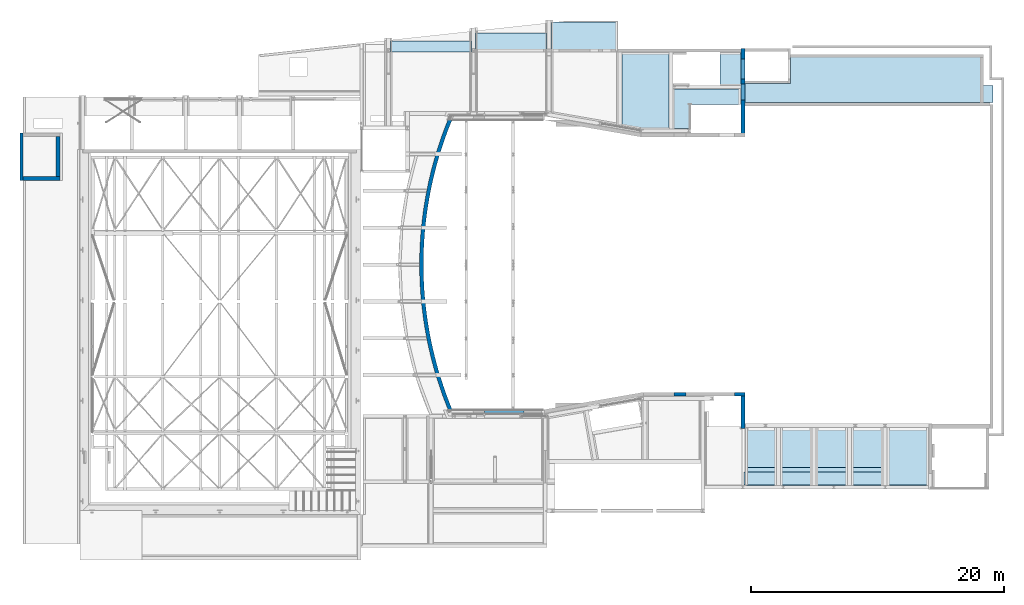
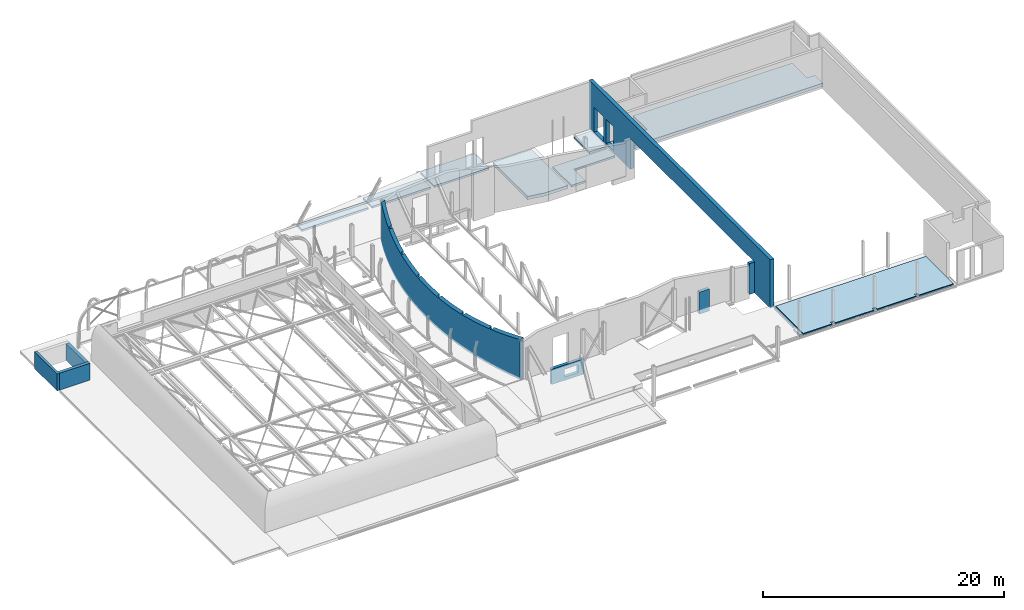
# One storey, part 31 of 38: 8 slabs, 8 walls, 20 openings.
"""IFC2X3 building model written with IfcOpenShell, lengths in millimetres."""

import ifcopenshell
import ifcopenshell.guid

model = None  # the IFC model being written
_history = None  # IfcOwnerHistory: only IFC2X3 demands one
_inside = {}  # id of a spatial element -> (the spatial element, [elements in it])
_under = {}  # id of a project, library or spatial element -> (it, [spatial elements below it])
_declared = {}  # id of a project -> (the project, [libraries it declares])
_typed = {}  # id of a type object -> (the type object, [elements of that type])
_made_of = {}  # id of a material, layer set ... -> (it, [elements and type objects made of it])


def new_model(schema):
    """Start an empty IFC model of exactly this schema.

    Asked for "IFC4X3", IfcOpenShell would pick the latest addendum, in which some entities
    have other attributes; the version numbers below select the first issue.
    IFC2X3 requires an IfcOwnerHistory on every rooted entity: one is made here for all.
    """
    global model, _history
    if schema == "IFC4X3":
        model = ifcopenshell.file(schema_version=(4, 3, 0, 0))
    else:
        model = ifcopenshell.file(schema=schema)
    _inside.clear()
    _under.clear()
    _declared.clear()
    _typed.clear()
    _made_of.clear()
    _history = None
    if model.schema == "IFC2X3":
        org = make("IfcOrganization", Name="unknown")
        user = make(
            "IfcPersonAndOrganization",
            ThePerson=make("IfcPerson", FamilyName="unknown"),
            TheOrganization=org,
        )
        app = make(
            "IfcApplication",
            ApplicationDeveloper=org,
            Version="unknown",
            ApplicationFullName="unknown",
            ApplicationIdentifier="unknown",
        )
        _history = make(
            "IfcOwnerHistory",
            OwningUser=user,
            OwningApplication=app,
            ChangeAction="ADDED",
            CreationDate=0,
        )
    return model


def make(cls, **values):
    """One entity of the class cls with the attributes given. An attribute that is None is left unset."""
    return model.create_entity(
        cls, **{name: value for name, value in values.items() if value is not None}
    )


def entity(cls, *values):
    """Any entity or typed value of the class cls, its attributes in the order of the schema. None: left unset."""
    e = model.create_entity(cls)
    for i, value in enumerate(values):
        if value is not None:
            e[i] = value
    return e


def rooted(cls, **values):
    """An entity with a GlobalId (a new one), such as an element, a storey or a relation."""
    return make(cls, GlobalId=ifcopenshell.guid.new(), OwnerHistory=_history, **values)


def si_unit(unit_type, name, prefix=None):
    """IfcSIUnit, for example si_unit("LENGTHUNIT", "METRE", prefix="MILLI")."""
    return make("IfcSIUnit", UnitType=unit_type, Prefix=prefix, Name=name)


def converted_unit(unit_type, name, factor, base, dimensions=None, offset=None):
    """IfcConversionBasedUnit, such as the inch: factor (a typed value) times the base unit."""
    return make(
        "IfcConversionBasedUnit"
        if offset is None
        else "IfcConversionBasedUnitWithOffset",
        ConversionOffset=offset,
        Dimensions=None
        if dimensions is None
        else entity("IfcDimensionalExponents", *dimensions),
        UnitType=unit_type,
        Name=name,
        ConversionFactor=make(
            "IfcMeasureWithUnit", ValueComponent=factor, UnitComponent=base
        ),
    )


def derived_unit(unit_type, elements):
    """IfcDerivedUnit: a product of units, each with its exponent."""
    return make(
        "IfcDerivedUnit",
        Elements=[
            make("IfcDerivedUnitElement", Unit=unit, Exponent=power)
            for unit, power in elements
        ],
        UnitType=unit_type,
    )


def assignment(units):
    """IfcUnitAssignment: the units of a project."""
    return None if units is None else make("IfcUnitAssignment", Units=units)


def point(xyz):
    """IfcCartesianPoint."""
    return None if xyz is None else make("IfcCartesianPoint", Coordinates=xyz)


def direction(xyz):
    """IfcDirection."""
    return None if xyz is None else make("IfcDirection", DirectionRatios=xyz)


def frame(location, z_axis=None, x_axis=None):
    """IfcAxis2Placement3D, a coordinate frame: its origin and axes. An axis left out is left unset."""
    return make(
        "IfcAxis2Placement3D",
        Location=point(location),
        Axis=direction(z_axis),
        RefDirection=direction(x_axis),
    )


def frame_2d(location, x_axis=None):
    """IfcAxis2Placement2D, a coordinate frame in the plane: its origin and x axis."""
    return make(
        "IfcAxis2Placement2D", Location=point(location), RefDirection=direction(x_axis)
    )


def origin():
    """The frame at (0, 0, 0) with its axes left unset."""
    return frame((0.0, 0.0, 0.0))


def origin_2d_with_axis():
    """The frame at (0, 0) in the plane with the x axis (1, 0) written out."""
    return frame_2d((0.0, 0.0), x_axis=(1.0, 0.0))


def place(relative_to, where):
    """IfcLocalPlacement: puts the frame where relative to a parent placement (None: the world)."""
    return make(
        "IfcLocalPlacement", PlacementRelTo=relative_to, RelativePlacement=where
    )


def context(
    kind, dimensions, precision=None, world=None, true_north=None, identifier=None
):
    """IfcGeometricRepresentationContext, for example the 3D "Model" context."""
    return make(
        "IfcGeometricRepresentationContext",
        ContextIdentifier=identifier,
        ContextType=kind,
        CoordinateSpaceDimension=dimensions,
        Precision=precision,
        WorldCoordinateSystem=world,
        TrueNorth=true_north,
    )


def subcontext(parent, identifier, kind, view, scale=None):
    """IfcGeometricRepresentationSubContext, for example "Body" below "Model"."""
    return make(
        "IfcGeometricRepresentationSubContext",
        ContextIdentifier=identifier,
        ContextType=kind,
        ParentContext=parent,
        TargetScale=scale,
        TargetView=view,
    )


def project(units=None, contexts=None):
    """IfcProject with its units and contexts."""
    return rooted(
        "IfcProject",
        Name="project",
        RepresentationContexts=contexts,
        UnitsInContext=assignment(units),
    )


def spatial(cls, under=None, at=None, **own):
    """A site, building, storey or space (cls), placed at a placement, below another one or the project."""
    s = rooted(cls, ObjectPlacement=at, **own)
    if under is not None:
        _under.setdefault(under.id(), (under, []))[1].append(s)
    return s


def polyline(points):
    """IfcPolyline through the points."""
    return make("IfcPolyline", Points=[point(p) for p in points])


def circle_curve(where, radius):
    """IfcCircle in the frame where."""
    return make("IfcCircle", Position=where, Radius=radius)


def parameter(value):
    """IfcParameterValue: where a trimmed curve begins or ends, as a parameter of its basis curve."""
    return model.create_entity("IfcParameterValue", value)


def trimmed(basis, trim1, trim2, sense, master):
    """IfcTrimmedCurve: the piece of a basis curve between two trims."""
    return make(
        "IfcTrimmedCurve",
        BasisCurve=basis,
        Trim1=trim1,
        Trim2=trim2,
        SenseAgreement=sense,
        MasterRepresentation=master,
    )


def segment(curve, same_sense, transition):
    """IfcCompositeCurveSegment."""
    return make(
        "IfcCompositeCurveSegment",
        Transition=transition,
        SameSense=same_sense,
        ParentCurve=curve,
    )


def composite_curve(segments, self_intersect=None):
    """IfcCompositeCurve: segments joined end to end."""
    return make("IfcCompositeCurve", Segments=segments, SelfIntersect=self_intersect)


def profile(cls, at=None, kind="AREA", **sizes):
    """A parametric profile (cls). Its sizes go by their IFC names, for example OverallWidth=200.0."""
    return make(cls, ProfileType=kind, Position=at, **sizes)


def rectangle(**sizes):
    """IfcRectangleProfileDef."""
    return profile("IfcRectangleProfileDef", **sizes)


def outline(outer, holes=None, kind="AREA"):
    """IfcArbitraryClosedProfileDef: a profile drawn as a closed curve; with holes, ...WithVoids."""
    if holes is None:
        return make("IfcArbitraryClosedProfileDef", ProfileType=kind, OuterCurve=outer)
    return make(
        "IfcArbitraryProfileDefWithVoids",
        ProfileType=kind,
        OuterCurve=outer,
        InnerCurves=holes,
    )


def extrude(swept, where, along, depth):
    """IfcExtrudedAreaSolid: the profile swept, set in the frame where, extruded along a direction by depth."""
    return make(
        "IfcExtrudedAreaSolid",
        SweptArea=swept,
        Position=where,
        ExtrudedDirection=direction(along),
        Depth=depth,
    )


def clip(a, b, op="DIFFERENCE"):
    """IfcBooleanClippingResult: the solid a cut by the half space b."""
    return make(
        "IfcBooleanClippingResult", Operator=op, FirstOperand=a, SecondOperand=b
    )


def halfspace(plane, agree):
    """IfcHalfSpaceSolid: all space on one side of the plane z = 0 of the frame plane."""
    return make(
        "IfcHalfSpaceSolid",
        BaseSurface=make("IfcPlane", Position=plane),
        AgreementFlag=agree,
    )


def faces_of(points, faces, orient=None, outer=None):
    """IfcFace entities. A face is a list of loops; a loop is a list of indices into points, from 0.

    orient and outer hold one flag for each loop. By default every Orientation is true, the
    first loop of a face is its IfcFaceOuterBound and the others are IfcFaceBound.
    """
    made = []
    for i, loops in enumerate(faces):
        bounds = []
        for j, loop in enumerate(loops):
            is_outer = j == 0 if outer is None else outer[i][j]
            bounds.append(
                make(
                    "IfcFaceOuterBound" if is_outer else "IfcFaceBound",
                    Bound=make("IfcPolyLoop", Polygon=[points[k] for k in loop]),
                    Orientation=True if orient is None else orient[i][j],
                )
            )
        made.append(make("IfcFace", Bounds=bounds))
    return made


def faceted_brep(points, faces, orient=None, outer=None, voids=None):
    """IfcFacetedBrep: a solid bounded by flat faces; with voids (closed shells), ...WithVoids."""
    shared = [point(p) for p in points]
    hull = make("IfcClosedShell", CfsFaces=faces_of(shared, faces, orient, outer))
    if voids is None:
        return make("IfcFacetedBrep", Outer=hull)
    return make(
        "IfcFacetedBrepWithVoids",
        Outer=hull,
        Voids=[
            make(cls, CfsFaces=faces_of(shared, fs, o, b)) for cls, fs, o, b in voids
        ],
    )


def shape(context_of_items, identifier, shape_type, items):
    """IfcShapeRepresentation: the items that make up one representation, for example the "Body"."""
    return make(
        "IfcShapeRepresentation",
        ContextOfItems=context_of_items,
        RepresentationIdentifier=identifier,
        RepresentationType=shape_type,
        Items=items,
    )


def material(Name=None, Category=None):
    """IfcMaterial."""
    return make("IfcMaterial", Name=Name, Category=Category)


def layer(
    of_material, thickness, ventilated=None, Name=None, Category=None, Priority=None
):
    """IfcMaterialLayer: one layer of a wall or slab, of a material (None: an air gap)."""
    return make(
        "IfcMaterialLayer",
        Material=of_material,
        LayerThickness=thickness,
        IsVentilated=ventilated,
        Name=Name,
        Category=Category,
        Priority=Priority,
    )


def layer_set(layers, Name=None):
    """IfcMaterialLayerSet."""
    return make("IfcMaterialLayerSet", MaterialLayers=layers, LayerSetName=Name)


def layer_usage(for_layer_set, set_direction, sense, offset, extent=None):
    """IfcMaterialLayerSetUsage: how a layer set lies in its element."""
    return make(
        "IfcMaterialLayerSetUsage",
        ForLayerSet=for_layer_set,
        LayerSetDirection=set_direction,
        DirectionSense=sense,
        OffsetFromReferenceLine=offset,
        ReferenceExtent=extent,
    )


def made_of(thing, what):
    """Note that an element or type object is made of a material, layer set ...; save() writes the relation."""
    if what is not None:
        _made_of.setdefault(what.id(), (what, []))[1].append(thing)
    return thing


def type_object(cls, material=None, **own):
    """A type object (cls), such as IfcWallType, which elements share."""
    return made_of(rooted(cls, **own), material)


def element(
    cls,
    number,
    at=None,
    inside=None,
    cuts=None,
    type_object=None,
    material=None,
    context=None,
    identifier="Body",
    shape_type=None,
    held_by="IfcProductDefinitionShape",
    body=None,
    shapes=None,
    **own,
):
    """One element of the class cls, such as IfcWall. Its Tag is "e" and its number.

    at: its placement. inside: the storey or other place that contains it. cuts: it is an
    opening in that element (IfcRelVoidsElement). A single representation is given by context,
    identifier, shape_type and body (its items); several are given by shapes. held_by: the class
    of the entity that holds the representations. save() writes the other relations.
    """
    e = rooted(cls, Tag="e%d" % number, ObjectPlacement=at, **own)
    if body is not None:
        shapes = [shape(context, identifier, shape_type, body)]
    if shapes is not None:
        e.Representation = make(held_by, Representations=shapes)
    if inside is not None:
        _inside.setdefault(inside.id(), (inside, []))[1].append(e)
    if cuts is not None:
        rooted(
            "IfcRelVoidsElement", RelatingBuildingElement=cuts, RelatedOpeningElement=e
        )
    if type_object is not None:
        _typed.setdefault(type_object.id(), (type_object, []))[1].append(e)
    return made_of(e, material)


def aggregate(whole, parts):
    """IfcRelAggregates: a whole, such as a stair, and the parts it consists of."""
    return rooted("IfcRelAggregates", RelatingObject=whole, RelatedObjects=parts)


def save(model, path):
    """Write the relations noted so far, then the file.

    IfcRelAggregates (storeys below a building ...), IfcRelContainedInSpatialStructure (elements
    in a storey), IfcRelDefinesByType, IfcRelAssociatesMaterial and IfcRelDeclares: one each for
    every whole, place, type object, material and project.
    """
    for whole, parts in _under.values():
        aggregate(whole, parts)
    for where, things in _inside.values():
        rooted(
            "IfcRelContainedInSpatialStructure",
            RelatedElements=things,
            RelatingStructure=where,
        )
    for kind, things in _typed.values():
        rooted("IfcRelDefinesByType", RelatedObjects=things, RelatingType=kind)
    for what, things in _made_of.values():
        rooted("IfcRelAssociatesMaterial", RelatedObjects=things, RelatingMaterial=what)
    for by, libraries in _declared.values():
        rooted("IfcRelDeclares", RelatingContext=by, RelatedDefinitions=libraries)
    model.write(path)


model = new_model("IFC2X3")

# Units and contexts
model_context = context("Model", 3, precision=0.01, world=origin(), true_north=direction((6.12303176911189e-17, 1.0)))
body_context = subcontext(model_context, "Body", "Model", "MODEL_VIEW")
ifc_project = project(units=[si_unit("LENGTHUNIT", "METRE", prefix="MILLI"), si_unit("AREAUNIT", "SQUARE_METRE", prefix="MILLI"), si_unit("VOLUMEUNIT", "CUBIC_METRE"), converted_unit("PLANEANGLEUNIT", "DEGREE", entity("IfcRatioMeasure", 0.0174532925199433), si_unit("PLANEANGLEUNIT", "RADIAN"), dimensions=[0, 0, 0, 0, 0, 0, 0]), si_unit("MASSUNIT", "GRAM", prefix="KILO"), derived_unit("MASSDENSITYUNIT", [(si_unit("MASSUNIT", "GRAM", prefix="KILO"), 1), (si_unit("LENGTHUNIT", "METRE"), -3)]), derived_unit("MOMENTOFINERTIAUNIT", [(si_unit("LENGTHUNIT", "METRE"), 4)]), si_unit("TIMEUNIT", "SECOND"), si_unit("FREQUENCYUNIT", "HERTZ"), si_unit("THERMODYNAMICTEMPERATUREUNIT", "DEGREE_CELSIUS"), derived_unit("THERMALTRANSMITTANCEUNIT", [(si_unit("MASSUNIT", "GRAM", prefix="KILO"), 1), (si_unit("THERMODYNAMICTEMPERATUREUNIT", "KELVIN"), -1), (si_unit("TIMEUNIT", "SECOND"), -3)]), derived_unit("VOLUMETRICFLOWRATEUNIT", [(si_unit("LENGTHUNIT", "METRE"), 3), (si_unit("TIMEUNIT", "SECOND"), -1)]), si_unit("ELECTRICCURRENTUNIT", "AMPERE"), si_unit("ELECTRICVOLTAGEUNIT", "VOLT"), si_unit("POWERUNIT", "WATT"), si_unit("FORCEUNIT", "NEWTON", prefix="KILO"), si_unit("ILLUMINANCEUNIT", "LUX"), si_unit("LUMINOUSFLUXUNIT", "LUMEN"), si_unit("LUMINOUSINTENSITYUNIT", "CANDELA"), derived_unit("USERDEFINED", [(si_unit("MASSUNIT", "GRAM", prefix="KILO"), -1), (si_unit("LENGTHUNIT", "METRE"), -2), (si_unit("TIMEUNIT", "SECOND"), 3), (si_unit("LUMINOUSFLUXUNIT", "LUMEN"), 1)]), derived_unit("LINEARVELOCITYUNIT", [(si_unit("LENGTHUNIT", "METRE"), 1), (si_unit("TIMEUNIT", "SECOND"), -1)]), si_unit("PRESSUREUNIT", "PASCAL"), derived_unit("USERDEFINED", [(si_unit("LENGTHUNIT", "METRE"), -2), (si_unit("MASSUNIT", "GRAM", prefix="KILO"), 1), (si_unit("TIMEUNIT", "SECOND"), -2)]), derived_unit("LINEARFORCEUNIT", [(si_unit("MASSUNIT", "GRAM", prefix="KILO"), 1), (si_unit("LENGTHUNIT", "METRE"), 1), (si_unit("TIMEUNIT", "SECOND"), -2), (si_unit("LENGTHUNIT", "METRE"), -1)]), derived_unit("PLANARFORCEUNIT", [(si_unit("MASSUNIT", "GRAM", prefix="KILO"), 1), (si_unit("LENGTHUNIT", "METRE"), 1), (si_unit("TIMEUNIT", "SECOND"), -2), (si_unit("LENGTHUNIT", "METRE"), -2)])], contexts=[model_context])

# Site, building, storey
site_placement = place(None, origin())
site = spatial("IfcSite", under=ifc_project, at=site_placement, Name="Theater aan de Parade", CompositionType="ELEMENT")
building_placement = place(site_placement, origin())
building = spatial("IfcBuilding", under=site, at=building_placement, Name="Theater aan de Parade", CompositionType="ELEMENT")
storey_placement = place(building_placement, frame((0.0, 0.0, 12480.0)))
storey = spatial("IfcBuildingStorey", under=building, at=storey_placement, Name="03 derde verdieping", CompositionType="ELEMENT", Elevation=12480.0)

# Slabs
ifc_material_1 = material(Name="00_PBT_MAT_systeemvloer")
ifc_layer_1 = layer(ifc_material_1, 320.0)
ifc_layer_set_1 = layer_set([ifc_layer_1], Name="Floor:28_PBT_FL_kanaalplaat_d=320")
ifc_layer_usage_1 = layer_usage(ifc_layer_set_1, "AXIS3", "POSITIVE", 0.0)
slab_type_1 = type_object("IfcSlabType", Name="Floor:28_PBT_FL_kanaalplaat_d=320", PredefinedType="FLOOR", material=ifc_layer_set_1)
slab_1_placement = place(storey_placement, origin())
element("IfcSlab", 1, at=slab_1_placement, inside=storey, type_object=slab_type_1, material=ifc_layer_usage_1, Name="Floor:28_PBT_FL_kanaalplaat_d=320", ObjectType="Floor:28_PBT_FL_kanaalplaat_d=320", PredefinedType="FLOOR", context=body_context, shape_type="SweptSolid", body=[
    extrude(outline(polyline([(-2223.35049208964, -2098.5780240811), (-57.7771015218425, -2098.5780240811), (1537.47768378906, -1819.40843665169), (1483.500200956, -1819.4084366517), (1483.500200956, 3917.98646073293), (-2223.35049208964, 3917.98646073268), (-2223.35049208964, -2098.5780240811)])), frame((59440.5317642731, 45303.5780240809, 60.0), z_axis=(0.0, 0.0, -1.0), x_axis=(-1.0, 0.0, 0.0)), (0.0, 0.0, 1.0), 320.000000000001),
])
ifc_material_2 = material(Name="00_PBT_MAT_beton t.p.g._C30/37")
ifc_layer_2 = layer(ifc_material_2, 320.0)
ifc_layer_set_2 = layer_set([ifc_layer_2], Name="Floor:28_PBT_FL_beton t.p.g._d=320_C30/37")
ifc_layer_usage_2 = layer_usage(ifc_layer_set_2, "AXIS3", "POSITIVE", 0.0)
slab_type_2 = type_object("IfcSlabType", Name="Floor:28_PBT_FL_beton t.p.g._d=320_C30/37", PredefinedType="FLOOR", material=ifc_layer_set_2)
slab_2_placement = place(storey_placement, origin())
element("IfcSlab", 2, at=slab_2_placement, inside=storey, type_object=slab_type_2, material=ifc_layer_usage_2, Name="Floor:28_PBT_FL_beton t.p.g._d=320_C30/37", ObjectType="Floor:28_PBT_FL_beton t.p.g._d=320_C30/37", PredefinedType="FLOOR", context=body_context, shape_type="SweptSolid", body=[
    extrude(outline(polyline([(-1666.43617033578, -10517.3500036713), (-164.563829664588, -10517.3500036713), (-164.563829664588, -6916.60610462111), (2145.56382966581, -6916.60610462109), (2145.56382966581, 8331.56221291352), (-314.563829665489, 8331.56221291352), (-314.563829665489, 9102.39389537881), (-1666.43617033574, 9102.39389537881), (-1666.43617033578, -10517.3500036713)])), frame((78223.6061046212, 46926.4361703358, 200.0), z_axis=(0.0, 0.0, -1.0), x_axis=(0.0, 1.0, 0.0)), (0.0, 0.0, 1.0), 320.000000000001),
])
ifc_layer_3 = layer(ifc_material_2, 100.0)
ifc_layer_set_3 = layer_set([ifc_layer_3], Name="Floor:28_PBT_FL_beton t.p.g._d=100_C30/37")
ifc_layer_usage_3 = layer_usage(ifc_layer_set_3, "AXIS3", "POSITIVE", 0.0)
slab_type_3 = type_object("IfcSlabType", Name="Floor:28_PBT_FL_beton t.p.g._d=100_C30/37", PredefinedType="FLOOR", material=ifc_layer_set_3)
slab_3_placement = place(storey_placement, origin())
element("IfcSlab", 3, at=slab_3_placement, inside=storey, type_object=slab_type_3, material=ifc_layer_usage_3, Name="Floor:28_PBT_FL_beton t.p.g._d=100_C30/37", ObjectType="Floor:28_PBT_FL_beton t.p.g._d=100_C30/37", PredefinedType="FLOOR", context=body_context, shape_type="SweptSolid", body=[
    extrude(outline(polyline([(-682.750000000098, -7009.67119134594), (3909.25000000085, -7009.67119134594), (3909.25000000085, 7404.08112939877), (-682.750000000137, 7404.08112939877), (-682.750000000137, 4127.93167699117), (-392.750000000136, 4127.93167699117), (-392.750000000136, 3827.93167699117), (-682.750000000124, 3827.93167699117), (-682.750000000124, 65.9316769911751), (-392.750000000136, 65.9316769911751), (-392.750000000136, -234.068323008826), (-682.750000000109, -234.068323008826), (-682.750000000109, -3941.06832300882), (-392.750000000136, -3941.06832300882), (-392.750000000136, -4241.06832300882), (-682.750000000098, -4241.06832300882), (-682.750000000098, -7009.67119134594)])), frame((74795.9272923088, 15364.7499999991, 200.0), z_axis=(0.0, 0.0, -1.0), x_axis=(0.0, 1.0, 0.0)), (0.0, 0.0, 1.0), 100.000000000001),
])

# Slab, openings
ifc_layer_4 = layer(ifc_material_1, 200.0)
ifc_layer_set_4 = layer_set([ifc_layer_4], Name="Floor:28_PBT_FL_kanaalplaat_d=200")
ifc_layer_usage_4 = layer_usage(ifc_layer_set_4, "AXIS3", "POSITIVE", 0.0)
slab_type_4 = type_object("IfcSlabType", Name="Floor:28_PBT_FL_kanaalplaat_d=200", PredefinedType="FLOOR")
slab_4_placement = place(storey_placement, frame((29188.8975663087, 46120.0, -600.0)))
slab_4 = element("IfcSlab", 4, at=slab_4_placement, inside=storey, type_object=slab_type_4, material=ifc_layer_usage_4, Name="Floor:28_PBT_FL_kanaalplaat_d=200:3", ObjectType="Floor:28_PBT_FL_kanaalplaat_d=200", PredefinedType="FLOOR", context=body_context, shape_type="SweptSolid", body=[
    extrude(outline(polyline([(-14179.5608507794, 2950.76621388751), (-14179.5608507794, 550.766213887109), (-8942.6539639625, 550.766213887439), (-8942.6539639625, 2888.43916703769), (-9517.05542982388, 2950.76621388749), (-14179.5608507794, 2950.76621388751)])), frame((14218.5731462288, 2591.2317769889, 200.0), z_axis=(0.0, 0.0, -1.0), x_axis=(-1.0, 0.0, 0.0)), (0.0, 0.0, 1.0), 200.0),
])
placement_1 = place(storey_placement, frame((29188.8975663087, 46120.0, -600.0)))
placement_2 = place(placement_1, origin())
element("IfcOpeningElement", 5, at=placement_2, cuts=slab_4, ObjectType="Opening", context=body_context, shape_type="SweptSolid", body=[
    extrude(rectangle(XDim=1400.0, YDim=1400.0, at=origin_2d_with_axis()), frame((3136.10243369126, 1970.1873789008, 0.0), z_axis=(0.0, 0.0, 1.0), x_axis=(-1.0, 0.0, 0.0)), (0.0, 0.0, 1.0), 200.0),
])
placement_3 = place(placement_1, origin())
element("IfcOpeningElement", 6, at=placement_3, cuts=slab_4, ObjectType="Opening", context=body_context, shape_type="SweptSolid", body=[
    extrude(rectangle(XDim=340.000000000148, YDim=8014.96060777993, at=origin_2d_with_axis()), frame((4007.48030388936, -170.0, -205.0), z_axis=(0.0, 0.0, 1.0), x_axis=(0.0, 1.0, 0.0)), (0.0, 0.0, 1.0), 414.999999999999),
])

slab_type_5 = type_object("IfcSlabType", Name="Floor:28_PBT_FL_kanaalplaat_d=200", PredefinedType="FLOOR")
slab_5_placement = place(storey_placement, frame((29188.8975663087, 46120.0, -600.0)))
slab_5 = element("IfcSlab", 7, at=slab_5_placement, inside=storey, type_object=slab_type_5, material=ifc_layer_usage_4, Name="Floor:28_PBT_FL_kanaalplaat_d=200:4", ObjectType="Floor:28_PBT_FL_kanaalplaat_d=200", PredefinedType="FLOOR", context=body_context, shape_type="SweptSolid", body=[
    extrude(rectangle(XDim=900.000000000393, YDim=6395.5015528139, at=frame_2d((577.552678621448, 1000.76621388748), x_axis=(0.0, -1.0))), frame((14218.5731462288, 2591.2317769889, 200.0), z_axis=(0.0, 0.0, -1.0), x_axis=(-1.0, 0.0, 0.0)), (0.0, 0.0, 1.0), 200.0),
])
element("IfcOpeningElement", 8, at=placement_2, cuts=slab_5, ObjectType="Opening", context=body_context, shape_type="SweptSolid", body=[
    extrude(rectangle(XDim=1400.0, YDim=1400.0, at=origin_2d_with_axis()), frame((3136.10243369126, 1970.1873789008, 0.0), z_axis=(0.0, 0.0, 1.0), x_axis=(-1.0, 0.0, 0.0)), (0.0, 0.0, 1.0), 200.0),
])
element("IfcOpeningElement", 9, at=placement_3, cuts=slab_5, ObjectType="Opening", context=body_context, shape_type="SweptSolid", body=[
    extrude(rectangle(XDim=340.000000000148, YDim=8014.96060777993, at=origin_2d_with_axis()), frame((4007.48030388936, -170.0, -205.0), z_axis=(0.0, 0.0, 1.0), x_axis=(0.0, 1.0, 0.0)), (0.0, 0.0, 1.0), 414.999999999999),
])

slab_type_6 = type_object("IfcSlabType", Name="Floor:28_PBT_FL_kanaalplaat_d=200", PredefinedType="FLOOR", material=ifc_layer_set_4)
slab_6_placement = place(storey_placement, frame((29188.8975663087, 46120.0, -600.0)))
slab_6 = element("IfcSlab", 10, at=slab_6_placement, inside=storey, type_object=slab_type_6, material=ifc_layer_usage_4, Name="Floor:28_PBT_FL_kanaalplaat_d=200:5", ObjectType="Floor:28_PBT_FL_kanaalplaat_d=200", PredefinedType="FLOOR", context=body_context, shape_type="SweptSolid", body=[
    extrude(rectangle(XDim=1500.0, YDim=5642.45586617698, at=frame_2d((-5781.426030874, 1300.76621388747), x_axis=(0.0, 1.0))), frame((14218.5731462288, 2591.2317769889, 200.0), z_axis=(0.0, 0.0, -1.0), x_axis=(-1.0, 0.0, 0.0)), (0.0, 0.0, 1.0), 200.0),
])
element("IfcOpeningElement", 11, at=placement_2, cuts=slab_6, ObjectType="Opening", context=body_context, shape_type="SweptSolid", body=[
    extrude(rectangle(XDim=1400.0, YDim=1400.0, at=origin_2d_with_axis()), frame((3136.10243369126, 1970.1873789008, 0.0), z_axis=(0.0, 0.0, 1.0), x_axis=(-1.0, 0.0, 0.0)), (0.0, 0.0, 1.0), 200.0),
])
element("IfcOpeningElement", 12, at=placement_3, cuts=slab_6, ObjectType="Opening", context=body_context, shape_type="SweptSolid", body=[
    extrude(rectangle(XDim=340.000000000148, YDim=8014.96060777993, at=origin_2d_with_axis()), frame((4007.48030388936, -170.0, -205.0), z_axis=(0.0, 0.0, 1.0), x_axis=(0.0, 1.0, 0.0)), (0.0, 0.0, 1.0), 414.999999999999),
])

ifc_layer_5 = layer(ifc_material_1, 200.0)
ifc_layer_set_5 = layer_set([ifc_layer_5], Name="Floor:28_PBT_FL_massieve plaat_d=200")
ifc_layer_usage_5 = layer_usage(ifc_layer_set_5, "AXIS3", "POSITIVE", 0.0)
slab_type_7 = type_object("IfcSlabType", Name="Floor:28_PBT_FL_massieve plaat_d=200", PredefinedType="FLOOR", material=ifc_layer_set_5)
slab_7_placement = place(storey_placement, frame((67626.2561009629, 15002.0, -280.0)))
slab_7 = element("IfcSlab", 13, at=slab_7_placement, inside=storey, type_object=slab_type_7, material=ifc_layer_usage_5, Name="Floor:28_PBT_FL_massieve plaat_d=200", ObjectType="Floor:28_PBT_FL_massieve plaat_d=200", PredefinedType="FLOOR", context=body_context, shape_type="SweptSolid", body=[
    extrude(outline(polyline([(-7286.87616037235, -2254.0), (7286.87616037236, -2254.0), (7286.87616037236, -1229.0), (-3860.72670796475, -1229.0), (-3860.72670796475, -889.0), (7146.87616037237, -889.0), (7146.87616037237, 2254.0), (-7286.87616037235, 2254.0), (-7286.87616037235, -2254.0)])), frame((7286.87616037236, 2254.0, 200.0), z_axis=(0.0, 0.0, -1.0), x_axis=(-1.0, 0.0, 0.0)), (0.0, 0.0, 1.0), 200.0),
])
opening_7_placement = place(slab_7_placement, origin())
element("IfcOpeningElement", 14, at=opening_7_placement, cuts=slab_7, ObjectType="Opening", context=body_context, shape_type="SweptSolid", body=[
    extrude(rectangle(XDim=349.999999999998, YDim=4575.30000000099, at=origin_2d_with_axis()), frame((2715.65071708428, 2260.35000000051, -5.0), z_axis=(0.0, 0.0, 1.0), x_axis=(-1.0, 0.0, 0.0)), (0.0, 0.0, 1.0), 204.999999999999),
])
opening_8_placement = place(slab_7_placement, origin())
element("IfcOpeningElement", 15, at=opening_8_placement, cuts=slab_7, ObjectType="Opening", context=body_context, shape_type="SweptSolid", body=[
    extrude(rectangle(XDim=349.999999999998, YDim=4575.30000000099, at=origin_2d_with_axis()), frame((5526.30143416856, 2260.3500000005, -5.0), z_axis=(0.0, 0.0, 1.0), x_axis=(-1.0, 0.0, 0.0)), (0.0, 0.0, 1.0), 204.999999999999),
])
opening_9_placement = place(slab_7_placement, origin())
element("IfcOpeningElement", 16, at=opening_9_placement, cuts=slab_7, ObjectType="Opening", context=body_context, shape_type="SweptSolid", body=[
    extrude(rectangle(XDim=349.999999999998, YDim=4575.30000000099, at=origin_2d_with_axis()), frame((8336.95215125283, 2260.35000000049, -5.0), z_axis=(0.0, 0.0, 1.0), x_axis=(-1.0, 0.0, 0.0)), (0.0, 0.0, 1.0), 204.999999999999),
])
opening_10_placement = place(slab_7_placement, origin())
element("IfcOpeningElement", 17, at=opening_10_placement, cuts=slab_7, ObjectType="Opening", context=body_context, shape_type="SweptSolid", body=[
    extrude(rectangle(XDim=349.99999999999, YDim=4595.30000000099, at=origin_2d_with_axis()), frame((11147.6028683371, 2250.35000000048, -5.0), z_axis=(0.0, 0.0, 1.0), x_axis=(-1.0, 0.0, 0.0)), (0.0, 0.0, 1.0), 204.999999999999),
])

# Slab, opening
ifc_layer_usage_6 = layer_usage(ifc_layer_set_5, "AXIS3", "POSITIVE", 0.0)
slab_type_8 = type_object("IfcSlabType", Name="Floor:28_PBT_FL_massieve plaat_d=200", PredefinedType="FLOOR", material=ifc_layer_set_5)
slab_8_placement = place(storey_placement, frame((62003.8822563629, 43205.0, -260.0)))
slab_8 = element("IfcSlab", 18, at=slab_8_placement, inside=storey, type_object=slab_type_8, material=ifc_layer_usage_6, Name="Floor:28_PBT_FL_massieve plaat_d=200", ObjectType="Floor:28_PBT_FL_massieve plaat_d=200", PredefinedType="FLOOR", context=body_context, shape_type="SweptSolid", body=[
    extrude(outline(polyline([(1338.80991867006, -3008.28224240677), (2676.18692230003, -3008.28224240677), (2676.18692230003, 133.580874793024), (-1033.8130777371, 133.580874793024), (-1033.8130777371, 3008.28224240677), (-2676.18692229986, 3008.28224240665), (-2676.18692230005, 153.58087479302), (-2626.18692230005, 153.58087479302), (-2626.18692230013, -1095.71841674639), (1338.80991867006, -1095.71841674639), (1338.80991867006, -3008.28224240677)])), frame((2676.18692230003, 3008.28224240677, 200.0), z_axis=(0.0, 0.0, -1.0), x_axis=(-1.0, 0.0, 0.0)), (0.0, 0.0, 1.0), 200.0),
])
opening_11_placement = place(slab_8_placement, origin())
element("IfcOpeningElement", 19, at=opening_11_placement, cuts=slab_8, ObjectType="Opening", context=body_context, shape_type="SweptSolid", body=[
    extrude(rectangle(XDim=300.000000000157, YDim=5372.37384459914, at=origin_2d_with_axis()), frame((2666.18692229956, 3291.86311719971, 0.0), z_axis=(0.0, 0.0, 1.0), x_axis=(0.0, 1.0, 0.0)), (0.0, 0.0, 1.0), 325.0),
])

# Wall, openings
ifc_material_3 = material(Name="00_PBT_MAT_beton t.p.g.")
ifc_layer_6 = layer(ifc_material_3, 300.0)
ifc_layer_set_6 = layer_set([ifc_layer_6], Name="Basic Wall:28_PBT_WA_beton t.p.g._d=300_bestaand")
ifc_layer_usage_7 = layer_usage(ifc_layer_set_6, "AXIS2", "NEGATIVE", 150.0)
wall_type_1 = type_object("IfcWallType", Name="Basic Wall:28_PBT_WA_beton t.p.g._d=300_bestaand", PredefinedType="STANDARD", material=ifc_layer_set_6)
wall_1_placement = place(storey_placement, frame((44364.0232422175, 43967.2427572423, -10.0)))
wall_1 = element("IfcWallStandardCase", 20, at=wall_1_placement, inside=storey, type_object=wall_type_1, material=ifc_layer_usage_7, Name="Basic Wall:28_PBT_WA_beton t.p.g._d=300_bestaand", ObjectType="Basic Wall:28_PBT_WA_beton t.p.g._d=300_bestaand", context=body_context, shape_type="SweptSolid", body=[
    extrude(outline(composite_curve([segment(polyline([(138.647995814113, -57.2427572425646), (-185.641785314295, -57.2427572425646)]), True, "CONTINUOUS"), segment(trimmed(circle_curve(frame_2d((27895.9767577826, -11517.2427572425), x_axis=(1.0, 0.0)), 30330.0), [parameter(157.799818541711)], [parameter(202.32265479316)], True, "PARAMETER"), True, "CONTINUOUS"), segment(polyline([(-161.08117778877, -23037.2427572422), (163.495801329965, -23037.2427572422)]), True, "CONTINUOUS"), segment(trimmed(circle_curve(frame_2d((27895.9767577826, -11517.2427572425), x_axis=(1.0, 0.0)), 30030.0), [parameter(157.566034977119)], [parameter(202.557870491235)], True, "PARAMETER"), False, "CONTINUOUS")], self_intersect=False)), origin(), (0.0, 0.0, 1.0), 4184.7428270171),
])
opening_12_placement = place(wall_1_placement, frame((-3232.28392722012, -23017.2427572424, 2876.0)))
element("IfcOpeningElement", 21, at=opening_12_placement, cuts=wall_1, Name="Basic Wall:28_PBT_WA_beton t.p.g._d=300_bestaand", ObjectType="Opening", context=body_context, shape_type="Brep", body=[
    faceted_brep([(11978.2606850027, 0.0, 1742.0), (11978.2606850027, 1420.0, 1487.0), (11978.2606850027, 3100.0, 1233.0), (11978.2606850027, 4780.0, 1030.0), (11978.2606850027, 6460.0, 874.0), (11978.2606850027, 8140.0, 756.0), (11978.2606850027, 9820.0, 697.0), (11978.2606850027, 11500.0, 675.0), (11978.2606850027, 13180.0, 697.0), (11978.2606850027, 14860.0, 756.0), (11978.2606850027, 16540.0, 874.0), (11978.2606850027, 18220.0, 1030.0), (11978.2606850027, 19900.0, 1233.0), (11978.2606850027, 21580.0, 1487.0), (11978.2606850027, 23000.0, 1742.0), (0.0, 0.0, 1742.0), (0.0, 23000.0, 1742.0), (0.0, 21580.0, 1487.0), (0.0, 19900.0, 1233.0), (0.0, 18220.0, 1030.0), (0.0, 16540.0, 874.0), (0.0, 14860.0, 756.0), (0.0, 13180.0, 697.0), (0.0, 11500.0, 675.0), (0.0, 9820.0, 697.0), (0.0, 8140.0, 756.0), (0.0, 6460.0, 874.0), (0.0, 4780.0, 1030.0), (0.0, 3100.0, 1233.0), (0.0, 1420.0, 1487.0), (2507.47968500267, 20050.0, 526.0), (2507.47968500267, 19750.0, 526.0), (2045.78486192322, 19750.0, 526.0), (2132.56445263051, 20050.0, 526.0), (2507.47968500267, 19750.0, 1214.875), (2045.78486192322, 19750.0, 1214.875), (2507.47968500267, 16690.0, 177.0), (2507.47968500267, 16390.0, 177.0), (1296.3851154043, 16390.0, 177.0), (1347.11228538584, 16690.0, 177.0), (1347.11228538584, 16690.0, 887.928571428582), (2507.47968500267, 16690.0, 887.92857142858), (2132.56445263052, 20050.0, 1255.67857142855), (2507.47968500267, 20050.0, 1255.67857142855), (2089.17465727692, 3100.0, 1233.0), (2132.56445263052, 2950.0, 1255.67857142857), (2507.47968500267, 2950.0, 1255.67857142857), (2507.47968500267, 3100.0, 1233.0), (2507.47968500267, 3250.0, 1214.875), (2045.78486192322, 3250.0, 1214.875), (1321.74870039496, 6460.0, 874.0), (1347.11228538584, 6310.0, 887.928571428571), (2507.47968500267, 6310.0, 887.928571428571), (2507.47968500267, 6460.0, 874.0), (2507.47968500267, 6610.0, 863.464285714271), (1296.3851154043, 6610.0, 863.464285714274), (945.352768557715, 9820.0, 697.0), (953.701864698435, 9670.0, 702.267857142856), (2507.47968500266, 9670.0, 702.267857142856), (2507.47968500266, 9820.0, 697.0), (2507.47968500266, 9970.0, 695.035714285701), (937.003672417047, 9970.0, 695.035714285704), (945.352768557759, 13180.0, 697.0), (937.003672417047, 13030.0, 695.035714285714), (2507.47968500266, 13030.0, 695.035714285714), (2507.47968500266, 13180.0, 697.0), (2507.47968500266, 13330.0, 702.267857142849), (953.701864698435, 13330.0, 702.267857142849), (1321.74870039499, 16540.0, 874.0), (1296.3851154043, 16390.0, 863.464285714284), (2507.47968500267, 16390.0, 863.464285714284), (2507.47968500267, 16540.0, 874.0), (2089.17465727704, 19900.0, 1233.0), (2507.47968500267, 19900.0, 1233.0), (2507.47968500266, 13330.0, 0.0), (2507.47968500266, 13030.0, 0.0), (937.003672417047, 13030.0, 0.0), (953.701864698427, 13330.0, 0.0), (2507.47968500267, 2950.0, 526.0), (2132.56445263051, 2950.0, 526.0), (2045.78486192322, 3250.0, 526.0), (2507.47968500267, 3250.0, 526.0), (2507.47968500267, 6310.0, 177.0), (1347.11228538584, 6310.0, 177.0), (1296.3851154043, 6610.0, 177.0), (2507.47968500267, 6610.0, 177.0), (2507.47968500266, 9670.0, 0.0), (953.701864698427, 9670.0, 0.0), (937.003672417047, 9970.0, 0.0), (2507.47968500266, 9970.0, 0.0)], [[[0, 1, 2, 3, 4, 5, 6, 7, 8, 9, 10, 11, 12, 13, 14]], [[15, 16, 17, 18, 19, 20, 21, 22, 23, 24, 25, 26, 27, 28, 29]], [[14, 16, 15, 0]], [[30, 31, 32, 33]], [[31, 34, 35, 32]], [[36, 37, 38, 39]], [[39, 40, 41, 36]], [[33, 42, 43, 30]], [[0, 15, 29, 1]], [[1, 29, 28, 44, 45, 46, 47, 2]], [[2, 47, 48, 49, 44, 28, 27, 3]], [[3, 27, 26, 50, 51, 52, 53, 4]], [[4, 53, 54, 55, 50, 26, 25, 5]], [[5, 25, 24, 56, 57, 58, 59, 6]], [[6, 59, 60, 61, 56, 24, 23, 7]], [[7, 23, 22, 62, 63, 64, 65, 8]], [[8, 65, 66, 67, 62, 22, 21, 9]], [[9, 21, 20, 68, 69, 70, 71, 10]], [[10, 71, 41, 40, 68, 20, 19, 11]], [[11, 19, 18, 72, 35, 34, 73, 12]], [[12, 73, 43, 42, 72, 18, 17, 13]], [[13, 17, 16, 14]], [[32, 35, 72, 42, 33]], [[30, 43, 73, 34, 31]], [[37, 70, 69, 38]], [[36, 41, 71, 70, 37]], [[38, 69, 68, 40, 39]], [[74, 75, 76, 77]], [[77, 67, 66, 74]], [[75, 64, 63, 76]], [[74, 66, 65, 64, 75]], [[76, 63, 62, 67, 77]], [[78, 79, 80, 81]], [[78, 46, 45, 79]], [[79, 45, 44, 49, 80]], [[80, 49, 48, 81]], [[81, 48, 47, 46, 78]], [[82, 83, 84, 85]], [[82, 52, 51, 83]], [[84, 55, 54, 85]], [[85, 54, 53, 52, 82]], [[83, 51, 50, 55, 84]], [[86, 87, 88, 89]], [[86, 58, 57, 87]], [[88, 61, 60, 89]], [[89, 60, 59, 58, 86]], [[87, 57, 56, 61, 88]]]),
])
opening_13_placement = place(wall_1_placement, origin())
element("IfcOpeningElement", 22, at=opening_13_placement, cuts=wall_1, Name="Basic Wall:28_PBT_WA_beton t.p.g._d=300_bestaand", ObjectType="Opening", context=body_context, shape_type="SweptSolid", body=[
    extrude(outline(polyline([(-735.943857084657, -11500.0), (-553.064559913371, -11500.0), (-303.338275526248, -10109.3673575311), (-48.5655010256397, -8424.25609311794), (155.054932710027, -6739.12146909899), (311.47208276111, -5054.62908393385), (429.834618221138, -3369.46756213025), (489.014771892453, -1684.337762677), (511.071575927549, 0.0), (489.014771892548, 1684.33776267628), (429.834618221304, 3369.46756213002), (311.472082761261, 5054.62908393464), (155.054932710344, 6739.12146909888), (-48.5655010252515, 8424.25609311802), (-303.338275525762, 10109.3673575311), (-553.064559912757, 11500.0), (-735.943857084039, 11500.0), (-735.943857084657, -11500.0)])), frame((-3232.28392722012, -11517.2427572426, 3882.05614291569), z_axis=(1.0, 0.0, 0.0), x_axis=(0.0, 0.0, -1.0)), (0.0, 0.0, 1.0), 11978.2606850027),
])
opening_14_placement = place(wall_1_placement, origin())
element("IfcOpeningElement", 23, at=opening_14_placement, cuts=wall_1, Name="Basic Wall:28_PBT_WA_beton t.p.g._d=300_bestaand", ObjectType="Opening", context=body_context, shape_type="SweptSolid", body=[
    extrude(outline(polyline([(-3361.83238690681, -2525.41717046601), (5331.07040798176, -2525.41717046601), (2788.31179466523, 3996.42142263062), (-4757.54981574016, 1054.41291830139), (-3361.83238690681, -2525.41717046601)])), frame((-835.496607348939, -29057.2427572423, 6489.26023280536), z_axis=(0.0, 1.0, 0.0), x_axis=(-0.931691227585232, 0.0, -0.363251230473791)), (0.0, 0.0, 1.0), 30000.0),
])

# Walls
ifc_layer_7 = layer(ifc_material_2, 300.0)
ifc_layer_set_7 = layer_set([ifc_layer_7], Name="Basic Wall:28_PBT_WA_beton t.p.g._d=300_C30/37")
ifc_layer_usage_8 = layer_usage(ifc_layer_set_7, "AXIS2", "NEGATIVE", 150.0)
wall_type_2 = type_object("IfcWallType", Name="Basic Wall:28_PBT_WA_beton t.p.g._d=300_C30/37", PredefinedType="STANDARD", material=ifc_layer_set_7)
wall_2_placement = place(storey_placement, frame((13454.8570025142, 39270.0, -340.0), z_axis=(0.0, 0.0, 1.0), x_axis=(-1.0, 0.0, 0.0)))
element("IfcWallStandardCase", 24, at=wall_2_placement, inside=storey, type_object=wall_type_2, material=ifc_layer_usage_8, Name="Basic Wall:28_PBT_WA_beton t.p.g._d=300_C30/37", ObjectType="Basic Wall:28_PBT_WA_beton t.p.g._d=300_C30/37", context=body_context, shape_type="SweptSolid", body=[
    extrude(rectangle(XDim=2900.74444879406, YDim=300.000000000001, at=frame_2d((1450.37222439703, -6.11066752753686e-13), x_axis=(-1.0, 0.0))), origin(), (0.0, 0.0, 1.0), 1720.0),
])
ifc_layer_usage_9 = layer_usage(ifc_layer_set_7, "AXIS2", "NEGATIVE", 150.0)
wall_3_placement = place(storey_placement, frame((13304.8570025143, 42570.0, -340.0), z_axis=(0.0, 0.0, 1.0), x_axis=(0.0, -1.0, 0.0)))
element("IfcWallStandardCase", 25, at=wall_3_placement, inside=storey, type_object=wall_type_2, material=ifc_layer_usage_9, Name="Basic Wall:28_PBT_WA_beton t.p.g._d=300_C30/37", ObjectType="Basic Wall:28_PBT_WA_beton t.p.g._d=300_C30/37", context=body_context, shape_type="SweptSolid", body=[
    extrude(rectangle(XDim=3150.00000002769, YDim=300.000000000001, at=frame_2d((1575.00000001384, 1.84741111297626e-13), x_axis=(-1.0, 0.0))), origin(), (0.0, 0.0, 1.0), 1720.0),
])
ifc_layer_usage_10 = layer_usage(ifc_layer_set_7, "AXIS2", "POSITIVE", -150.0)
wall_4_placement = place(storey_placement, frame((67706.2561009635, 22190.0, 0.0), z_axis=(0.0, 0.0, 1.0), x_axis=(-1.0, 0.0, 0.0)))
element("IfcWallStandardCase", 26, at=wall_4_placement, inside=storey, type_object=wall_type_2, material=ifc_layer_usage_10, Name="Basic Wall:28_PBT_WA_beton t.p.g._d=300_C30/37", ObjectType="Basic Wall:28_PBT_WA_beton t.p.g._d=300_C30/37", context=body_context, shape_type="SweptSolid", body=[
    extrude(rectangle(XDim=850.000000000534, YDim=300.000000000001, at=frame_2d((425.000000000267, 0.0), x_axis=(-1.0, 0.0))), origin(), (0.0, 0.0, 1.0), 3124.99999999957),
])
ifc_layer_usage_11 = layer_usage(ifc_layer_set_7, "AXIS2", "NEGATIVE", 150.0)
wall_5_placement = place(storey_placement, frame((62070.0, 22190.0, -320.0)))
element("IfcWallStandardCase", 27, at=wall_5_placement, inside=storey, type_object=wall_type_2, material=ifc_layer_usage_11, Name="Basic Wall:28_PBT_WA_beton t.p.g._d=300_C30/37", ObjectType="Basic Wall:28_PBT_WA_beton t.p.g._d=300_C30/37", context=body_context, shape_type="SweptSolid", body=[
    extrude(rectangle(XDim=950.000000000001, YDim=300.000000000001, at=frame_2d((475.0, 0.0), x_axis=(-1.0, 0.0))), origin(), (0.0, 0.0, 1.0), 2240.0),
])

# Wall, opening
ifc_layer_usage_12 = layer_usage(ifc_layer_set_7, "AXIS2", "NEGATIVE", 150.0)
wall_6_placement = place(storey_placement, frame((47080.0352585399, 20780.0, -1363.0)))
wall_6 = element("IfcWallStandardCase", 28, at=wall_6_placement, inside=storey, type_object=wall_type_2, material=ifc_layer_usage_12, Name="Basic Wall:28_PBT_WA_beton t.p.g._d=300_C30/37", ObjectType="Basic Wall:28_PBT_WA_beton t.p.g._d=300_C30/37", context=body_context, shape_type="Clipping", body=[
    clip(extrude(rectangle(XDim=3100.00000000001, YDim=300.000000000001, at=frame_2d((1550.0, 4.2632564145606e-14), x_axis=(-1.0, 0.0))), origin(), (0.0, 0.0, 1.0), 1563.0), halfspace(frame((3100.0, -150.0, 0.0), z_axis=(0.0, 0.0, -1.0), x_axis=(0.0, 1.0, 0.0)), False)),
])
opening_15_placement = place(wall_6_placement, origin())
element("IfcOpeningElement", 29, at=opening_15_placement, cuts=wall_6, Name="Basic Wall:28_PBT_WA_beton t.p.g._d=300_C30/37", ObjectType="Opening", context=body_context, shape_type="SweptSolid", body=[
    extrude(rectangle(XDim=790.896479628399, YDim=1330.0, at=frame_2d((-4.32009983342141e-12, 1.08002495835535e-12), x_axis=(0.0, 1.0))), frame((1900.0, 150.0, 724.5517601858), z_axis=(0.0, -1.0, 0.0), x_axis=(1.0, 0.0, 0.0)), (0.0, 0.0, 1.0), 300.0),
])

# Wall
ifc_layer_8 = layer(ifc_material_2, 250.0)
ifc_layer_set_8 = layer_set([ifc_layer_8], Name="Basic Wall:28_PBT_WA_beton t.p.g._d=250_C30/37")
ifc_layer_usage_13 = layer_usage(ifc_layer_set_8, "AXIS2", "POSITIVE", -125.0)
wall_type_3 = type_object("IfcWallType", Name="Basic Wall:28_PBT_WA_beton t.p.g._d=250_C30/37", PredefinedType="STANDARD", material=ifc_layer_set_8)
wall_7_placement = place(storey_placement, frame((10429.1125537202, 39120.0, -340.0), z_axis=(0.0, 0.0, 1.0), x_axis=(0.0, 1.0, 0.0)))
element("IfcWallStandardCase", 30, at=wall_7_placement, inside=storey, type_object=wall_type_3, material=ifc_layer_usage_13, Name="Basic Wall:28_PBT_WA_beton t.p.g._d=250_C30/37", ObjectType="Basic Wall:28_PBT_WA_beton t.p.g._d=250_C30/37", context=body_context, shape_type="SweptSolid", body=[
    extrude(rectangle(XDim=3750.00000002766, YDim=249.999999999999, at=frame_2d((1875.00000001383, 3.5527136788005e-13), x_axis=(-1.0, 0.0))), origin(), (0.0, 0.0, 1.0), 1720.0),
])

# Wall, openings
ifc_layer_9 = layer(ifc_material_2, 350.0)
ifc_layer_set_9 = layer_set([ifc_layer_9], Name="Basic Wall:28_PBT_WA_beton t.p.g._d=350_C30/37")
ifc_layer_usage_14 = layer_usage(ifc_layer_set_9, "AXIS2", "NEGATIVE", 175.0)
wall_type_4 = type_object("IfcWallType", Name="Basic Wall:28_PBT_WA_beton t.p.g._d=350_C30/37", PredefinedType="STANDARD", material=ifc_layer_set_9)
wall_8_placement = place(storey_placement, frame((67531.2561009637, 19460.0, 0.0), z_axis=(0.0, 0.0, 1.0), x_axis=(0.0, 1.0, 0.0)))
wall_8 = element("IfcWallStandardCase", 31, at=wall_8_placement, inside=storey, type_object=wall_type_4, material=ifc_layer_usage_14, Name="Basic Wall:28_PBT_WA_beton t.p.g._d=350_C30/37", ObjectType="Basic Wall:28_PBT_WA_beton t.p.g._d=350_C30/37", context=body_context, shape_type="SweptSolid", body=[
    extrude(rectangle(XDim=30101.9999999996, YDim=350.000000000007, at=frame_2d((15050.9999999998, 2.1316282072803e-12), x_axis=(-1.0, 0.0))), origin(), (0.0, 0.0, 1.0), 4910.00000000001),
])
opening_16_placement = place(wall_8_placement, origin())
element("IfcOpeningElement", 32, at=opening_16_placement, cuts=wall_8, Name="Basic Wall:28_PBT_WA_beton t.p.g._d=350_C30/37", ObjectType="Opening", context=body_context, shape_type="SweptSolid", body=[
    extrude(rectangle(XDim=2449.99999999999, YDim=1980.0, at=frame_2d((0.0, -2.1600499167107e-12), x_axis=(0.0, 1.0))), frame((28666.8723406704, -175.0, 6135.0), z_axis=(0.0, 1.0, 0.0), x_axis=(1.0, 0.0, 0.0)), (0.0, 0.0, 1.0), 350.000000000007),
])
opening_17_placement = place(wall_8_placement, origin())
element("IfcOpeningElement", 33, at=opening_17_placement, cuts=wall_8, Name="Basic Wall:28_PBT_WA_beton t.p.g._d=350_C30/37", ObjectType="Opening", context=body_context, shape_type="SweptSolid", body=[
    extrude(rectangle(XDim=2419.99999999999, YDim=1254.0, at=frame_2d((4.37694325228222e-12, 1.02318153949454e-12), x_axis=(0.0, 1.0))), frame((26634.9992342, -175.0, 1410.0), z_axis=(0.0, 1.0, 0.0), x_axis=(1.0, 0.0, 0.0)), (0.0, 0.0, 1.0), 350.000000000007),
])
opening_18_placement = place(wall_8_placement, origin())
element("IfcOpeningElement", 34, at=opening_18_placement, cuts=wall_8, Name="Basic Wall:28_PBT_WA_beton t.p.g._d=350_C30/37", ObjectType="Opening", context=body_context, shape_type="SweptSolid", body=[
    extrude(rectangle(XDim=2529.99999999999, YDim=1580.0, at=frame_2d((0.0, 0.0), x_axis=(0.0, 1.0))), frame((28466.8723406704, -175.0, 1385.0), z_axis=(0.0, 1.0, 0.0), x_axis=(1.0, 0.0, 0.0)), (0.0, 0.0, 1.0), 350.000000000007),
])
opening_19_placement = place(wall_8_placement, origin())
element("IfcOpeningElement", 35, at=opening_19_placement, cuts=wall_8, Name="Basic Wall:28_PBT_WA_beton t.p.g._d=350_C30/37", ObjectType="Opening", context=body_context, shape_type="SweptSolid", body=[
    extrude(rectangle(XDim=2419.99999999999, YDim=1054.0, at=frame_2d((0.0, 1.02318153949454e-12), x_axis=(0.0, 1.0))), frame((26717.0, -175.0, 6120.0), z_axis=(0.0, 1.0, 0.0), x_axis=(1.0, 0.0, 0.0)), (0.0, 0.0, 1.0), 350.000000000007),
])
opening_20_placement = place(wall_8_placement, origin())
element("IfcOpeningElement", 36, at=opening_20_placement, cuts=wall_8, Name="Basic Wall:28_PBT_WA_beton t.p.g._d=350_C30/37", ObjectType="Opening", context=body_context, shape_type="SweptSolid", body=[
    extrude(rectangle(XDim=3125.0, YDim=20510.0, at=frame_2d((1.81898940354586e-12, 0.0), x_axis=(0.0, 1.0))), frame((12985.0, 175.0, 1562.5), z_axis=(0.0, -1.0, 0.0), x_axis=(1.0, 0.0, 0.0)), (0.0, 0.0, 1.0), 350.0),
])

save(model, "model.ifc")
